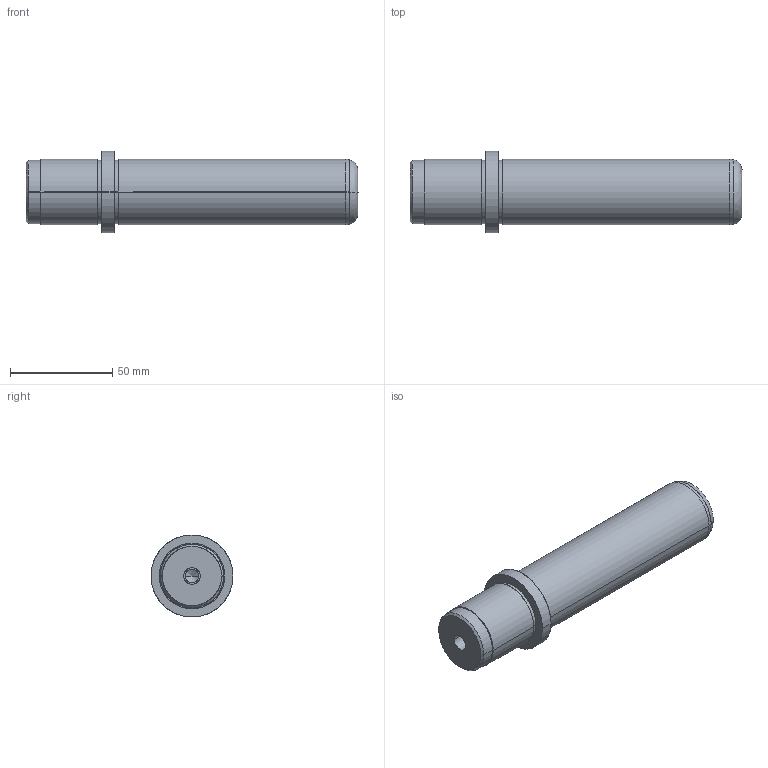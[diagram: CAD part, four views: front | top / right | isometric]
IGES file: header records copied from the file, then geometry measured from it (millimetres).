
Start section: SolidWorks IGES FILE using analytic representation for surfaces
Global section: file name: D:\zzzzz\Delta\D06\32\D06 - 32x125x37.IGS; native system: SolidWorks 2004 by SolidWorks Corporation; preprocessor: Version 5.3; author: Hkn; date: 080327.150824; units: millimetre
Bounding box: 162 x 40 x 40 mm (x, y, z)
Surface area: 19998.1 mm2 (no closed solid volume)
Topology: 0 solids, 0 shells, 39 faces, 1048 edges, 1044 vertices
Faces by surface type: revolution 28, bspline 11
